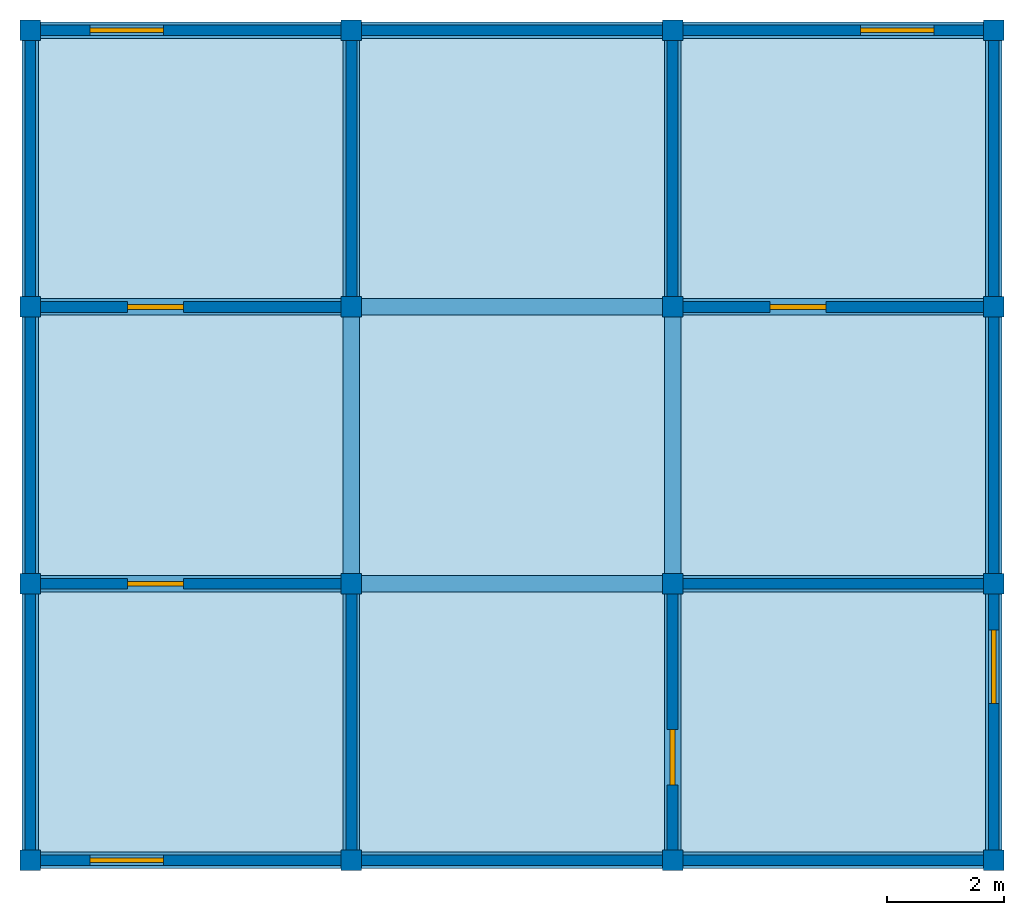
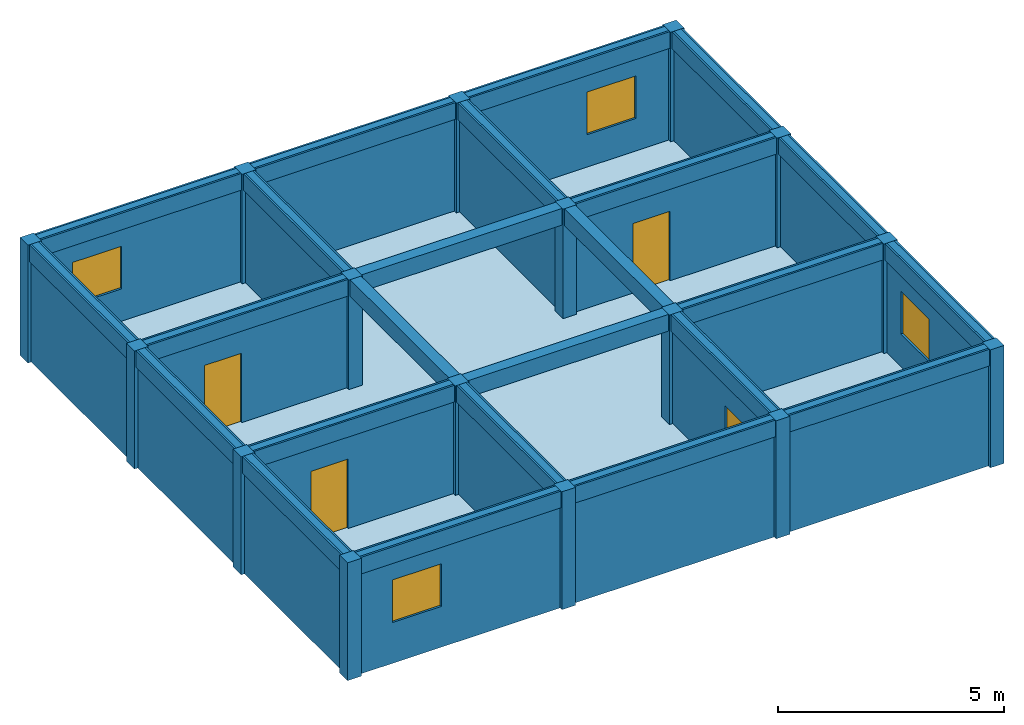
# One storey: 24 beams, 20 walls, 16 columns, 4 doors, 4 windows, 1 slab, 8 openings.
"""IFC4X3 building model written with IfcOpenShell, lengths in metres."""

from ifc_helpers import new_model, si_unit, frame, origin_with_axes, origin_2d, place, context, project, spatial, rectangle, extrude, material, element, fill, save


model = new_model("IFC4X3")

# Units and contexts
model_context = context("Model", 3, precision=1e-05, world=origin_with_axes())
ifc_project = project(units=[si_unit("LENGTHUNIT", "METRE"), si_unit("AREAUNIT", "SQUARE_METRE"), si_unit("VOLUMEUNIT", "CUBIC_METRE")], contexts=[model_context])

# Site, building, storey
site = spatial("IfcSite", under=ifc_project, Name="Antofagasta Parcel", CompositionType="ELEMENT")
building = spatial("IfcBuilding", under=site, Name="Nexo Block", CompositionType="ELEMENT")
storey = spatial("IfcBuildingStorey", under=building, Name="Level 6", CompositionType="ELEMENT", Elevation=15.91)

# Columns
ifc_material_1 = material(Name="Timber")
column_1_placement = place(None, frame((-8.2, -7.065, 15.904), z_axis=(0.0, 0.0, 1.0), x_axis=(1.0, 0.0, 0.0)))
element("IfcColumn", 1, at=column_1_placement, inside=storey, material=ifc_material_1, Name="Column 6.1", ObjectType="Corner Column", PredefinedType="PILASTER", context=model_context, shape_type="SweptSolid", body=[
    extrude(rectangle(XDim=0.35, YDim=0.35, at=origin_2d()), origin_with_axes(), (0.0, 0.0, 1.0), 3.181),
])
column_2_placement = place(None, frame((-8.2, -2.355, 15.904), z_axis=(0.0, 0.0, 1.0), x_axis=(1.0, 0.0, 0.0)))
element("IfcColumn", 2, at=column_2_placement, inside=storey, material=ifc_material_1, Name="Column 6.2", ObjectType="Structural Column", PredefinedType="USERDEFINED", context=model_context, shape_type="SweptSolid", body=[
    extrude(rectangle(XDim=0.35, YDim=0.35, at=origin_2d()), origin_with_axes(), (0.0, 0.0, 1.0), 3.181),
])
column_3_placement = place(None, frame((-8.2, 2.355, 15.904), z_axis=(0.0, 0.0, 1.0), x_axis=(1.0, 0.0, 0.0)))
element("IfcColumn", 3, at=column_3_placement, inside=storey, material=ifc_material_1, Name="Column 6.3", ObjectType="Core Column", PredefinedType="USERDEFINED", context=model_context, shape_type="SweptSolid", body=[
    extrude(rectangle(XDim=0.35, YDim=0.35, at=origin_2d()), origin_with_axes(), (0.0, 0.0, 1.0), 3.181),
])
column_4_placement = place(None, frame((-8.2, 7.065, 15.904), z_axis=(0.0, 0.0, 1.0), x_axis=(1.0, 0.0, 0.0)))
element("IfcColumn", 4, at=column_4_placement, inside=storey, material=ifc_material_1, Name="Column 6.4", ObjectType="Corner Column", PredefinedType="NOTDEFINED", context=model_context, shape_type="SweptSolid", body=[
    extrude(rectangle(XDim=0.35, YDim=0.35, at=origin_2d()), origin_with_axes(), (0.0, 0.0, 1.0), 3.181),
])
column_5_placement = place(None, frame((-2.733, -7.065, 15.904), z_axis=(0.0, 0.0, 1.0), x_axis=(1.0, 0.0, 0.0)))
element("IfcColumn", 5, at=column_5_placement, inside=storey, material=ifc_material_1, Name="Column 6.5", ObjectType="Structural Column", PredefinedType="USERDEFINED", context=model_context, shape_type="SweptSolid", body=[
    extrude(rectangle(XDim=0.35, YDim=0.35, at=origin_2d()), origin_with_axes(), (0.0, 0.0, 1.0), 3.181),
])
column_6_placement = place(None, frame((-2.733, -2.355, 15.904), z_axis=(0.0, 0.0, 1.0), x_axis=(1.0, 0.0, 0.0)))
element("IfcColumn", 6, at=column_6_placement, inside=storey, material=ifc_material_1, Name="Column 6.6", ObjectType="Core Column", PredefinedType="PILASTER", context=model_context, shape_type="SweptSolid", body=[
    extrude(rectangle(XDim=0.35, YDim=0.35, at=origin_2d()), origin_with_axes(), (0.0, 0.0, 1.0), 3.181),
])
column_7_placement = place(None, frame((-2.733, 2.355, 15.904), z_axis=(0.0, 0.0, 1.0), x_axis=(1.0, 0.0, 0.0)))
element("IfcColumn", 7, at=column_7_placement, inside=storey, material=ifc_material_1, Name="Column 6.7", ObjectType="Structural Column", PredefinedType="PILASTER", context=model_context, shape_type="SweptSolid", body=[
    extrude(rectangle(XDim=0.35, YDim=0.35, at=origin_2d()), origin_with_axes(), (0.0, 0.0, 1.0), 3.181),
])
column_8_placement = place(None, frame((-2.733, 7.065, 15.904), z_axis=(0.0, 0.0, 1.0), x_axis=(1.0, 0.0, 0.0)))
element("IfcColumn", 8, at=column_8_placement, inside=storey, material=ifc_material_1, Name="Column 6.8", ObjectType="Corner Column", PredefinedType="PILASTER", context=model_context, shape_type="SweptSolid", body=[
    extrude(rectangle(XDim=0.35, YDim=0.35, at=origin_2d()), origin_with_axes(), (0.0, 0.0, 1.0), 3.181),
])
column_9_placement = place(None, frame((2.734, -7.065, 15.904), z_axis=(0.0, 0.0, 1.0), x_axis=(1.0, 0.0, 0.0)))
element("IfcColumn", 9, at=column_9_placement, inside=storey, material=ifc_material_1, Name="Column 6.9", ObjectType="Core Column", PredefinedType="COLUMN", context=model_context, shape_type="SweptSolid", body=[
    extrude(rectangle(XDim=0.35, YDim=0.35, at=origin_2d()), origin_with_axes(), (0.0, 0.0, 1.0), 3.181),
])
column_10_placement = place(None, frame((2.734, -2.355, 15.904), z_axis=(0.0, 0.0, 1.0), x_axis=(1.0, 0.0, 0.0)))
element("IfcColumn", 10, at=column_10_placement, inside=storey, material=ifc_material_1, Name="Column 6.10", ObjectType="Core Column", PredefinedType="NOTDEFINED", context=model_context, shape_type="SweptSolid", body=[
    extrude(rectangle(XDim=0.35, YDim=0.35, at=origin_2d()), origin_with_axes(), (0.0, 0.0, 1.0), 3.181),
])
column_11_placement = place(None, frame((2.734, 2.355, 15.904), z_axis=(0.0, 0.0, 1.0), x_axis=(1.0, 0.0, 0.0)))
element("IfcColumn", 11, at=column_11_placement, inside=storey, material=ifc_material_1, Name="Column 6.11", ObjectType="Corner Column", PredefinedType="COLUMN", context=model_context, shape_type="SweptSolid", body=[
    extrude(rectangle(XDim=0.35, YDim=0.35, at=origin_2d()), origin_with_axes(), (0.0, 0.0, 1.0), 3.181),
])
column_12_placement = place(None, frame((2.734, 7.065, 15.904), z_axis=(0.0, 0.0, 1.0), x_axis=(1.0, 0.0, 0.0)))
element("IfcColumn", 12, at=column_12_placement, inside=storey, material=ifc_material_1, Name="Column 6.12", ObjectType="Core Column", PredefinedType="USERDEFINED", context=model_context, shape_type="SweptSolid", body=[
    extrude(rectangle(XDim=0.35, YDim=0.35, at=origin_2d()), origin_with_axes(), (0.0, 0.0, 1.0), 3.181),
])
column_13_placement = place(None, frame((8.201, -7.065, 15.904), z_axis=(0.0, 0.0, 1.0), x_axis=(1.0, 0.0, 0.0)))
element("IfcColumn", 13, at=column_13_placement, inside=storey, material=ifc_material_1, Name="Column 6.13", ObjectType="Core Column", PredefinedType="NOTDEFINED", context=model_context, shape_type="SweptSolid", body=[
    extrude(rectangle(XDim=0.35, YDim=0.35, at=origin_2d()), origin_with_axes(), (0.0, 0.0, 1.0), 3.181),
])
column_14_placement = place(None, frame((8.201, -2.355, 15.904), z_axis=(0.0, 0.0, 1.0), x_axis=(1.0, 0.0, 0.0)))
element("IfcColumn", 14, at=column_14_placement, inside=storey, material=ifc_material_1, Name="Column 6.14", ObjectType="Corner Column", PredefinedType="COLUMN", context=model_context, shape_type="SweptSolid", body=[
    extrude(rectangle(XDim=0.35, YDim=0.35, at=origin_2d()), origin_with_axes(), (0.0, 0.0, 1.0), 3.181),
])
column_15_placement = place(None, frame((8.201, 2.355, 15.904), z_axis=(0.0, 0.0, 1.0), x_axis=(1.0, 0.0, 0.0)))
element("IfcColumn", 15, at=column_15_placement, inside=storey, material=ifc_material_1, Name="Column 6.15", ObjectType="Facade Column", PredefinedType="PILASTER", context=model_context, shape_type="SweptSolid", body=[
    extrude(rectangle(XDim=0.35, YDim=0.35, at=origin_2d()), origin_with_axes(), (0.0, 0.0, 1.0), 3.181),
])
column_16_placement = place(None, frame((8.201, 7.065, 15.904), z_axis=(0.0, 0.0, 1.0), x_axis=(1.0, 0.0, 0.0)))
element("IfcColumn", 16, at=column_16_placement, inside=storey, material=ifc_material_1, Name="Column 6.16", ObjectType="Structural Column", PredefinedType="USERDEFINED", context=model_context, shape_type="SweptSolid", body=[
    extrude(rectangle(XDim=0.35, YDim=0.35, at=origin_2d()), origin_with_axes(), (0.0, 0.0, 1.0), 3.181),
])

# Beams
ifc_material_2 = material(Name="Concrete")
beam_1_placement = place(None, frame((-5.466, -7.065, 18.635), z_axis=(0.0, 0.0, 1.0), x_axis=(1.0, 0.0, 0.0)))
element("IfcBeam", 17, at=beam_1_placement, inside=storey, material=ifc_material_2, Name="Beam 6.1", ObjectType="Rafter Beam", PredefinedType="HOLLOWCORE", context=model_context, shape_type="SweptSolid", body=[
    extrude(rectangle(XDim=5.467, YDim=0.28, at=origin_2d()), origin_with_axes(), (0.0, 0.0, 1.0), 0.45),
])
beam_2_placement = place(None, frame((0.0, -7.065, 18.635), z_axis=(0.0, 0.0, 1.0), x_axis=(1.0, 0.0, 0.0)))
element("IfcBeam", 18, at=beam_2_placement, inside=storey, material=ifc_material_2, Name="Beam 6.2", ObjectType="Ridge Beam", PredefinedType="BEAM", context=model_context, shape_type="SweptSolid", body=[
    extrude(rectangle(XDim=5.467, YDim=0.28, at=origin_2d()), origin_with_axes(), (0.0, 0.0, 1.0), 0.45),
])
beam_3_placement = place(None, frame((5.468, -7.065, 18.635), z_axis=(0.0, 0.0, 1.0), x_axis=(1.0, 0.0, 0.0)))
element("IfcBeam", 19, at=beam_3_placement, inside=storey, material=ifc_material_2, Name="Beam 6.3", ObjectType="Rafter Beam", PredefinedType="USERDEFINED", context=model_context, shape_type="SweptSolid", body=[
    extrude(rectangle(XDim=5.467, YDim=0.28, at=origin_2d()), origin_with_axes(), (0.0, 0.0, 1.0), 0.45),
])
beam_4_placement = place(None, frame((-5.466, -2.355, 18.635), z_axis=(0.0, 0.0, 1.0), x_axis=(1.0, 0.0, 0.0)))
element("IfcBeam", 20, at=beam_4_placement, inside=storey, material=ifc_material_2, Name="Beam 6.4", ObjectType="Rafter Beam", PredefinedType="SPANDREL", context=model_context, shape_type="SweptSolid", body=[
    extrude(rectangle(XDim=5.467, YDim=0.28, at=origin_2d()), origin_with_axes(), (0.0, 0.0, 1.0), 0.45),
])
beam_5_placement = place(None, frame((0.0, -2.355, 18.635), z_axis=(0.0, 0.0, 1.0), x_axis=(1.0, 0.0, 0.0)))
element("IfcBeam", 21, at=beam_5_placement, inside=storey, material=ifc_material_2, Name="Beam 6.5", ObjectType="Transfer Beam", PredefinedType="JOIST", context=model_context, shape_type="SweptSolid", body=[
    extrude(rectangle(XDim=5.467, YDim=0.28, at=origin_2d()), origin_with_axes(), (0.0, 0.0, 1.0), 0.45),
])
beam_6_placement = place(None, frame((5.468, -2.355, 18.635), z_axis=(0.0, 0.0, 1.0), x_axis=(1.0, 0.0, 0.0)))
element("IfcBeam", 22, at=beam_6_placement, inside=storey, material=ifc_material_2, Name="Beam 6.6", ObjectType="Primary Beam", PredefinedType="LINTEL", context=model_context, shape_type="SweptSolid", body=[
    extrude(rectangle(XDim=5.467, YDim=0.28, at=origin_2d()), origin_with_axes(), (0.0, 0.0, 1.0), 0.45),
])
beam_7_placement = place(None, frame((-5.466, 2.355, 18.635), z_axis=(0.0, 0.0, 1.0), x_axis=(1.0, 0.0, 0.0)))
element("IfcBeam", 23, at=beam_7_placement, inside=storey, material=ifc_material_2, Name="Beam 6.7", ObjectType="Secondary Beam", PredefinedType="USERDEFINED", context=model_context, shape_type="SweptSolid", body=[
    extrude(rectangle(XDim=5.467, YDim=0.28, at=origin_2d()), origin_with_axes(), (0.0, 0.0, 1.0), 0.45),
])
beam_8_placement = place(None, frame((0.0, 2.355, 18.635), z_axis=(0.0, 0.0, 1.0), x_axis=(1.0, 0.0, 0.0)))
element("IfcBeam", 24, at=beam_8_placement, inside=storey, material=ifc_material_2, Name="Beam 6.8", ObjectType="Secondary Beam", PredefinedType="JOIST", context=model_context, shape_type="SweptSolid", body=[
    extrude(rectangle(XDim=5.467, YDim=0.28, at=origin_2d()), origin_with_axes(), (0.0, 0.0, 1.0), 0.45),
])
beam_9_placement = place(None, frame((5.468, 2.355, 18.635), z_axis=(0.0, 0.0, 1.0), x_axis=(1.0, 0.0, 0.0)))
element("IfcBeam", 25, at=beam_9_placement, inside=storey, material=ifc_material_2, Name="Beam 6.9", ObjectType="Primary Beam", PredefinedType="LINTEL", context=model_context, shape_type="SweptSolid", body=[
    extrude(rectangle(XDim=5.467, YDim=0.28, at=origin_2d()), origin_with_axes(), (0.0, 0.0, 1.0), 0.45),
])
beam_10_placement = place(None, frame((-5.466, 7.065, 18.635), z_axis=(0.0, 0.0, 1.0), x_axis=(1.0, 0.0, 0.0)))
element("IfcBeam", 26, at=beam_10_placement, inside=storey, material=ifc_material_2, Name="Beam 6.10", ObjectType="Transfer Beam", PredefinedType="NOTDEFINED", context=model_context, shape_type="SweptSolid", body=[
    extrude(rectangle(XDim=5.467, YDim=0.28, at=origin_2d()), origin_with_axes(), (0.0, 0.0, 1.0), 0.45),
])
beam_11_placement = place(None, frame((0.0, 7.065, 18.635), z_axis=(0.0, 0.0, 1.0), x_axis=(1.0, 0.0, 0.0)))
element("IfcBeam", 27, at=beam_11_placement, inside=storey, material=ifc_material_2, Name="Beam 6.11", ObjectType="Transfer Beam", PredefinedType="SPANDREL", context=model_context, shape_type="SweptSolid", body=[
    extrude(rectangle(XDim=5.467, YDim=0.28, at=origin_2d()), origin_with_axes(), (0.0, 0.0, 1.0), 0.45),
])
beam_12_placement = place(None, frame((5.468, 7.065, 18.635), z_axis=(0.0, 0.0, 1.0), x_axis=(1.0, 0.0, 0.0)))
element("IfcBeam", 28, at=beam_12_placement, inside=storey, material=ifc_material_2, Name="Beam 6.12", ObjectType="Ridge Beam", PredefinedType="T_BEAM", context=model_context, shape_type="SweptSolid", body=[
    extrude(rectangle(XDim=5.467, YDim=0.28, at=origin_2d()), origin_with_axes(), (0.0, 0.0, 1.0), 0.45),
])
beam_13_placement = place(None, frame((-8.2, -4.71, 18.635), z_axis=(0.0, 0.0, 1.0), x_axis=(0.0, 1.0, 0.0)))
element("IfcBeam", 29, at=beam_13_placement, inside=storey, material=ifc_material_2, Name="Beam 6.13", ObjectType="Ridge Beam", PredefinedType="NOTDEFINED", context=model_context, shape_type="SweptSolid", body=[
    extrude(rectangle(XDim=4.71, YDim=0.28, at=origin_2d()), origin_with_axes(), (0.0, 0.0, 1.0), 0.45),
])
beam_14_placement = place(None, frame((-8.2, 0.0, 18.635), z_axis=(0.0, 0.0, 1.0), x_axis=(0.0, 1.0, 0.0)))
element("IfcBeam", 30, at=beam_14_placement, inside=storey, material=ifc_material_2, Name="Beam 6.14", ObjectType="Secondary Beam", PredefinedType="USERDEFINED", context=model_context, shape_type="SweptSolid", body=[
    extrude(rectangle(XDim=4.71, YDim=0.28, at=origin_2d()), origin_with_axes(), (0.0, 0.0, 1.0), 0.45),
])
beam_15_placement = place(None, frame((-8.2, 4.71, 18.635), z_axis=(0.0, 0.0, 1.0), x_axis=(0.0, 1.0, 0.0)))
element("IfcBeam", 31, at=beam_15_placement, inside=storey, material=ifc_material_2, Name="Beam 6.15", ObjectType="Rafter Beam", PredefinedType="BEAM", context=model_context, shape_type="SweptSolid", body=[
    extrude(rectangle(XDim=4.71, YDim=0.28, at=origin_2d()), origin_with_axes(), (0.0, 0.0, 1.0), 0.45),
])
beam_16_placement = place(None, frame((-2.733, -4.71, 18.635), z_axis=(0.0, 0.0, 1.0), x_axis=(0.0, 1.0, 0.0)))
element("IfcBeam", 32, at=beam_16_placement, inside=storey, material=ifc_material_2, Name="Beam 6.16", ObjectType="Secondary Beam", PredefinedType="HOLLOWCORE", context=model_context, shape_type="SweptSolid", body=[
    extrude(rectangle(XDim=4.71, YDim=0.28, at=origin_2d()), origin_with_axes(), (0.0, 0.0, 1.0), 0.45),
])
for number, where, z_axis, x_axis, name in (
    (33, (-2.733, 0.0, 18.635), (0.0, 0.0, 1.0), (0.0, 1.0, 0.0), "Beam 6.17"),
    (34, (-2.733, 4.71, 18.635), (0.0, 0.0, 1.0), (0.0, 1.0, 0.0), "Beam 6.18"),
):
    element("IfcBeam", number, at=place(None, frame(where, z_axis=z_axis, x_axis=x_axis)), inside=storey, material=ifc_material_2, Name=name, ObjectType="Transfer Beam", PredefinedType="HOLLOWCORE", context=model_context, shape_type="SweptSolid", body=[
        extrude(rectangle(XDim=4.71, YDim=0.28, at=origin_2d()), origin_with_axes(), (0.0, 0.0, 1.0), 0.45),
    ])
beam_17_placement = place(None, frame((2.734, -4.71, 18.635), z_axis=(0.0, 0.0, 1.0), x_axis=(0.0, 1.0, 0.0)))
element("IfcBeam", 35, at=beam_17_placement, inside=storey, material=ifc_material_2, Name="Beam 6.19", ObjectType="Rafter Beam", PredefinedType="LINTEL", context=model_context, shape_type="SweptSolid", body=[
    extrude(rectangle(XDim=4.71, YDim=0.28, at=origin_2d()), origin_with_axes(), (0.0, 0.0, 1.0), 0.45),
])
beam_18_placement = place(None, frame((2.734, 0.0, 18.635), z_axis=(0.0, 0.0, 1.0), x_axis=(0.0, 1.0, 0.0)))
element("IfcBeam", 36, at=beam_18_placement, inside=storey, material=ifc_material_2, Name="Beam 6.20", ObjectType="Rafter Beam", PredefinedType="USERDEFINED", context=model_context, shape_type="SweptSolid", body=[
    extrude(rectangle(XDim=4.71, YDim=0.28, at=origin_2d()), origin_with_axes(), (0.0, 0.0, 1.0), 0.45),
])
beam_19_placement = place(None, frame((2.734, 4.71, 18.635), z_axis=(0.0, 0.0, 1.0), x_axis=(0.0, 1.0, 0.0)))
element("IfcBeam", 37, at=beam_19_placement, inside=storey, material=ifc_material_2, Name="Beam 6.21", ObjectType="Secondary Beam", PredefinedType="T_BEAM", context=model_context, shape_type="SweptSolid", body=[
    extrude(rectangle(XDim=4.71, YDim=0.28, at=origin_2d()), origin_with_axes(), (0.0, 0.0, 1.0), 0.45),
])
beam_20_placement = place(None, frame((8.201, -4.71, 18.635), z_axis=(0.0, 0.0, 1.0), x_axis=(0.0, 1.0, 0.0)))
element("IfcBeam", 38, at=beam_20_placement, inside=storey, material=ifc_material_2, Name="Beam 6.22", ObjectType="Secondary Beam", PredefinedType="JOIST", context=model_context, shape_type="SweptSolid", body=[
    extrude(rectangle(XDim=4.71, YDim=0.28, at=origin_2d()), origin_with_axes(), (0.0, 0.0, 1.0), 0.45),
])
beam_21_placement = place(None, frame((8.201, 0.0, 18.635), z_axis=(0.0, 0.0, 1.0), x_axis=(0.0, 1.0, 0.0)))
element("IfcBeam", 39, at=beam_21_placement, inside=storey, material=ifc_material_2, Name="Beam 6.23", ObjectType="Secondary Beam", PredefinedType="HOLLOWCORE", context=model_context, shape_type="SweptSolid", body=[
    extrude(rectangle(XDim=4.71, YDim=0.28, at=origin_2d()), origin_with_axes(), (0.0, 0.0, 1.0), 0.45),
])
beam_22_placement = place(None, frame((8.201, 4.71, 18.635), z_axis=(0.0, 0.0, 1.0), x_axis=(0.0, 1.0, 0.0)))
element("IfcBeam", 40, at=beam_22_placement, inside=storey, material=ifc_material_2, Name="Beam 6.24", ObjectType="Transfer Beam", PredefinedType="JOIST", context=model_context, shape_type="SweptSolid", body=[
    extrude(rectangle(XDim=4.71, YDim=0.28, at=origin_2d()), origin_with_axes(), (0.0, 0.0, 1.0), 0.45),
])

# Slab
slab_placement = place(None, frame((0.0, 0.0, 15.91), z_axis=(0.0, 0.0, 1.0), x_axis=(1.0, 0.0, 0.0)))
element("IfcSlab", 41, at=slab_placement, inside=storey, material=ifc_material_2, Name="Slab 6", ObjectType="Floor Slab", PredefinedType="FLOOR", context=model_context, shape_type="SweptSolid", body=[
    extrude(rectangle(XDim=16.4, YDim=14.13, at=origin_2d()), origin_with_axes(), (0.0, 0.0, 1.0), 0.22),
])

# Wall, opening, door
ifc_material_3 = material(Name="CLT")
wall_1_placement = place(None, frame((-5.466, -2.355, 15.904), z_axis=(0.0, 0.0, 1.0), x_axis=(1.0, 0.0, 0.0)))
wall_1 = element("IfcWall", 42, at=wall_1_placement, inside=storey, material=ifc_material_3, Name="Wall 6.1", ObjectType="Corridor Partition", PredefinedType="PARTITIONING", context=model_context, shape_type="SweptSolid", body=[
    extrude(rectangle(XDim=5.467, YDim=0.183078, at=origin_2d()), origin_with_axes(), (0.0, 0.0, 1.0), 3.181),
])
opening_1_placement = place(None, frame((-6.066, -2.355, 15.904), z_axis=(0.0, 0.0, 1.0), x_axis=(1.0, 0.0, 0.0)))
opening_1 = element("IfcOpeningElement", 43, at=opening_1_placement, cuts=wall_1, Name="Door opening 6.1", ObjectType="Door Opening", PredefinedType="OPENING", context=model_context, shape_type="SweptSolid", body=[
    extrude(rectangle(XDim=0.95, YDim=0.263078, at=origin_2d()), origin_with_axes(), (0.0, 0.0, 1.0), 2.1),
])
door_1_placement = place(None, frame((-6.066, -2.355, 15.904), z_axis=(0.0, 0.0, 1.0), x_axis=(1.0, 0.0, 0.0)))
door_1 = element("IfcDoor", 44, at=door_1_placement, inside=storey, Name="Door 6.1", ObjectType="Fire Door", OverallHeight=2.1, OverallWidth=0.95, context=model_context, shape_type="SweptSolid", body=[
    extrude(rectangle(XDim=0.95, YDim=0.08, at=origin_2d()), origin_with_axes(), (0.0, 0.0, 1.0), 2.1),
])
fill(opening_1, door_1)

# Wall
wall_2_placement = place(None, frame((-2.7325, -4.71, 15.904), z_axis=(0.0, 0.0, 1.0), x_axis=(0.0, 1.0, 0.0)))
element("IfcWall", 45, at=wall_2_placement, inside=storey, material=ifc_material_3, Name="Wall 6.2", ObjectType="Corridor Partition", PredefinedType="PLUMBINGWALL", context=model_context, shape_type="SweptSolid", body=[
    extrude(rectangle(XDim=4.71, YDim=0.183078, at=origin_2d()), origin_with_axes(), (0.0, 0.0, 1.0), 3.181),
])

# Wall, opening, window
wall_3_placement = place(None, frame((-5.466, -7.065, 15.904), z_axis=(0.0, 0.0, 1.0), x_axis=(1.0, 0.0, 0.0)))
wall_3 = element("IfcWall", 46, at=wall_3_placement, inside=storey, material=ifc_material_3, Name="Wall 6.3", ObjectType="Exterior Wall", PredefinedType="PARAPET", context=model_context, shape_type="SweptSolid", body=[
    extrude(rectangle(XDim=5.467, YDim=0.183078, at=origin_2d()), origin_with_axes(), (0.0, 0.0, 1.0), 3.181),
])
opening_2_placement = place(None, frame((-6.559, -7.065, 17.004), z_axis=(0.0, 0.0, 1.0), x_axis=(1.0, 0.0, 0.0)))
opening_2 = element("IfcOpeningElement", 47, at=opening_2_placement, cuts=wall_3, Name="Window opening 6.2", ObjectType="Window Opening", PredefinedType="OPENING", context=model_context, shape_type="SweptSolid", body=[
    extrude(rectangle(XDim=1.25, YDim=0.263078, at=origin_2d()), origin_with_axes(), (0.0, 0.0, 1.0), 1.15),
])
window_1_placement = place(None, frame((-6.559, -7.065, 17.004), z_axis=(0.0, 0.0, 1.0), x_axis=(1.0, 0.0, 0.0)))
window_1 = element("IfcWindow", 48, at=window_1_placement, inside=storey, Name="Window 6.2", ObjectType="Fixed Window", OverallHeight=1.15, OverallWidth=1.25, context=model_context, shape_type="SweptSolid", body=[
    extrude(rectangle(XDim=1.25, YDim=0.08, at=origin_2d()), origin_with_axes(), (0.0, 0.0, 1.0), 1.15),
])
fill(opening_2, window_1)

# Wall
ifc_material_4 = material(Name="Gypsum")
wall_4_placement = place(None, frame((-8.1995, -4.71, 15.904), z_axis=(0.0, 0.0, 1.0), x_axis=(0.0, 1.0, 0.0)))
element("IfcWall", 49, at=wall_4_placement, inside=storey, material=ifc_material_4, Name="Wall 6.4", ObjectType="Exterior Wall", PredefinedType="SHEAR", context=model_context, shape_type="SweptSolid", body=[
    extrude(rectangle(XDim=4.71, YDim=0.183078, at=origin_2d()), origin_with_axes(), (0.0, 0.0, 1.0), 3.181),
])

# Wall, opening, door
wall_5_placement = place(None, frame((2.7335, -4.71, 15.904), z_axis=(0.0, 0.0, 1.0), x_axis=(0.0, 1.0, 0.0)))
wall_5 = element("IfcWall", 50, at=wall_5_placement, inside=storey, material=ifc_material_2, Name="Wall 6.5", ObjectType="Corridor Partition", PredefinedType="POLYGONAL", context=model_context, shape_type="SweptSolid", body=[
    extrude(rectangle(XDim=4.71, YDim=0.183078, at=origin_2d()), origin_with_axes(), (0.0, 0.0, 1.0), 3.181),
])
opening_3_placement = place(None, frame((2.733, -5.31, 15.904), z_axis=(0.0, 0.0, 1.0), x_axis=(0.0, 1.0, 0.0)))
opening_3 = element("IfcOpeningElement", 51, at=opening_3_placement, cuts=wall_5, Name="Door opening 6.3", ObjectType="Door Opening", PredefinedType="OPENING", context=model_context, shape_type="SweptSolid", body=[
    extrude(rectangle(XDim=0.95, YDim=0.263078, at=origin_2d()), origin_with_axes(), (0.0, 0.0, 1.0), 2.1),
])
door_2_placement = place(None, frame((2.733, -5.31, 15.904), z_axis=(0.0, 0.0, 1.0), x_axis=(0.0, 1.0, 0.0)))
door_2 = element("IfcDoor", 52, at=door_2_placement, inside=storey, Name="Door 6.3", ObjectType="Entry Door", OverallHeight=2.1, OverallWidth=0.95, context=model_context, shape_type="SweptSolid", body=[
    extrude(rectangle(XDim=0.95, YDim=0.08, at=origin_2d()), origin_with_axes(), (0.0, 0.0, 1.0), 2.1),
])
fill(opening_3, door_2)

# Walls
wall_6_placement = place(None, frame((0.0, -7.065, 15.904), z_axis=(0.0, 0.0, 1.0), x_axis=(1.0, 0.0, 0.0)))
element("IfcWall", 53, at=wall_6_placement, inside=storey, material=ifc_material_4, Name="Wall 6.6", ObjectType="Exterior Wall", PredefinedType="ELEMENTEDWALL", context=model_context, shape_type="SweptSolid", body=[
    extrude(rectangle(XDim=5.467, YDim=0.183078, at=origin_2d()), origin_with_axes(), (0.0, 0.0, 1.0), 3.181),
])
ifc_material_5 = material(Name="Brick")
wall_7_placement = place(None, frame((5.467, -2.355, 15.904), z_axis=(0.0, 0.0, 1.0), x_axis=(1.0, 0.0, 0.0)))
element("IfcWall", 54, at=wall_7_placement, inside=storey, material=ifc_material_5, Name="Wall 6.7", ObjectType="Corridor Partition", PredefinedType="SHEAR", context=model_context, shape_type="SweptSolid", body=[
    extrude(rectangle(XDim=5.467, YDim=0.183078, at=origin_2d()), origin_with_axes(), (0.0, 0.0, 1.0), 3.181),
])

# Wall, opening, window
wall_8_placement = place(None, frame((8.2005, -4.71, 15.904), z_axis=(0.0, 0.0, 1.0), x_axis=(0.0, 1.0, 0.0)))
wall_8 = element("IfcWall", 55, at=wall_8_placement, inside=storey, material=ifc_material_2, Name="Wall 6.8", ObjectType="Exterior Wall", PredefinedType="ELEMENTEDWALL", context=model_context, shape_type="SweptSolid", body=[
    extrude(rectangle(XDim=4.71, YDim=0.183078, at=origin_2d()), origin_with_axes(), (0.0, 0.0, 1.0), 3.181),
])
opening_4_placement = place(None, frame((8.2, -3.768, 17.004), z_axis=(0.0, 0.0, 1.0), x_axis=(0.0, 1.0, 0.0)))
opening_4 = element("IfcOpeningElement", 56, at=opening_4_placement, cuts=wall_8, Name="Window opening 6.4", ObjectType="Window Opening", PredefinedType="OPENING", context=model_context, shape_type="SweptSolid", body=[
    extrude(rectangle(XDim=1.25, YDim=0.263078, at=origin_2d()), origin_with_axes(), (0.0, 0.0, 1.0), 1.15),
])
window_2_placement = place(None, frame((8.2, -3.768, 17.004), z_axis=(0.0, 0.0, 1.0), x_axis=(0.0, 1.0, 0.0)))
window_2 = element("IfcWindow", 57, at=window_2_placement, inside=storey, Name="Window 6.4", ObjectType="Fixed Window", OverallHeight=1.15, OverallWidth=1.25, context=model_context, shape_type="SweptSolid", body=[
    extrude(rectangle(XDim=1.25, YDim=0.08, at=origin_2d()), origin_with_axes(), (0.0, 0.0, 1.0), 1.15),
])
fill(opening_4, window_2)

# Wall
wall_9_placement = place(None, frame((5.467, -7.065, 15.904), z_axis=(0.0, 0.0, 1.0), x_axis=(1.0, 0.0, 0.0)))
element("IfcWall", 58, at=wall_9_placement, inside=storey, material=ifc_material_5, Name="Wall 6.9", ObjectType="Exterior Wall", PredefinedType="NOTDEFINED", context=model_context, shape_type="SweptSolid", body=[
    extrude(rectangle(XDim=5.467, YDim=0.183078, at=origin_2d()), origin_with_axes(), (0.0, 0.0, 1.0), 3.181),
])

# Wall, opening, door
wall_10_placement = place(None, frame((-5.466, 2.355, 15.904), z_axis=(0.0, 0.0, 1.0), x_axis=(1.0, 0.0, 0.0)))
wall_10 = element("IfcWall", 59, at=wall_10_placement, inside=storey, material=ifc_material_5, Name="Wall 6.10", ObjectType="Corridor Partition", PredefinedType="NOTDEFINED", context=model_context, shape_type="SweptSolid", body=[
    extrude(rectangle(XDim=5.467, YDim=0.183078, at=origin_2d()), origin_with_axes(), (0.0, 0.0, 1.0), 3.181),
])
opening_5_placement = place(None, frame((-6.066, 2.355, 15.904), z_axis=(0.0, 0.0, 1.0), x_axis=(1.0, 0.0, 0.0)))
opening_5 = element("IfcOpeningElement", 60, at=opening_5_placement, cuts=wall_10, Name="Door opening 6.5", ObjectType="Door Opening", PredefinedType="OPENING", context=model_context, shape_type="SweptSolid", body=[
    extrude(rectangle(XDim=0.95, YDim=0.263078, at=origin_2d()), origin_with_axes(), (0.0, 0.0, 1.0), 2.1),
])
door_3_placement = place(None, frame((-6.066, 2.355, 15.904), z_axis=(0.0, 0.0, 1.0), x_axis=(1.0, 0.0, 0.0)))
door_3 = element("IfcDoor", 61, at=door_3_placement, inside=storey, Name="Door 6.5", ObjectType="Fire Door", OverallHeight=2.1, OverallWidth=0.95, context=model_context, shape_type="SweptSolid", body=[
    extrude(rectangle(XDim=0.95, YDim=0.08, at=origin_2d()), origin_with_axes(), (0.0, 0.0, 1.0), 2.1),
])
fill(opening_5, door_3)

# Wall
wall_11_placement = place(None, frame((-8.1995, 0.0, 15.904), z_axis=(0.0, 0.0, 1.0), x_axis=(0.0, 1.0, 0.0)))
element("IfcWall", 62, at=wall_11_placement, inside=storey, material=ifc_material_3, Name="Wall 6.11", ObjectType="Exterior Wall", PredefinedType="STANDARD", context=model_context, shape_type="SweptSolid", body=[
    extrude(rectangle(XDim=4.71, YDim=0.183078, at=origin_2d()), origin_with_axes(), (0.0, 0.0, 1.0), 3.181),
])

# Wall, opening, door
wall_12_placement = place(None, frame((5.467, 2.355, 15.904), z_axis=(0.0, 0.0, 1.0), x_axis=(1.0, 0.0, 0.0)))
wall_12 = element("IfcWall", 63, at=wall_12_placement, inside=storey, material=ifc_material_2, Name="Wall 6.12", ObjectType="Corridor Partition", PredefinedType="MOVABLE", context=model_context, shape_type="SweptSolid", body=[
    extrude(rectangle(XDim=5.467, YDim=0.183078, at=origin_2d()), origin_with_axes(), (0.0, 0.0, 1.0), 3.181),
])
opening_6_placement = place(None, frame((4.867, 2.355, 15.904), z_axis=(0.0, 0.0, 1.0), x_axis=(1.0, 0.0, 0.0)))
opening_6 = element("IfcOpeningElement", 64, at=opening_6_placement, cuts=wall_12, Name="Door opening 6.7", ObjectType="Door Opening", PredefinedType="OPENING", context=model_context, shape_type="SweptSolid", body=[
    extrude(rectangle(XDim=0.95, YDim=0.263078, at=origin_2d()), origin_with_axes(), (0.0, 0.0, 1.0), 2.1),
])
door_4_placement = place(None, frame((4.867, 2.355, 15.904), z_axis=(0.0, 0.0, 1.0), x_axis=(1.0, 0.0, 0.0)))
door_4 = element("IfcDoor", 65, at=door_4_placement, inside=storey, Name="Door 6.7", ObjectType="Entry Door", OverallHeight=2.1, OverallWidth=0.95, context=model_context, shape_type="SweptSolid", body=[
    extrude(rectangle(XDim=0.95, YDim=0.08, at=origin_2d()), origin_with_axes(), (0.0, 0.0, 1.0), 2.1),
])
fill(opening_6, door_4)

# Wall
wall_13_placement = place(None, frame((8.2005, 0.0, 15.904), z_axis=(0.0, 0.0, 1.0), x_axis=(0.0, 1.0, 0.0)))
element("IfcWall", 66, at=wall_13_placement, inside=storey, material=ifc_material_2, Name="Wall 6.13", ObjectType="Exterior Wall", PredefinedType="STANDARD", context=model_context, shape_type="SweptSolid", body=[
    extrude(rectangle(XDim=4.71, YDim=0.183078, at=origin_2d()), origin_with_axes(), (0.0, 0.0, 1.0), 3.181),
])

# Wall, opening, window
wall_14_placement = place(None, frame((-5.466, 7.065, 15.904), z_axis=(0.0, 0.0, 1.0), x_axis=(1.0, 0.0, 0.0)))
wall_14 = element("IfcWall", 67, at=wall_14_placement, inside=storey, material=ifc_material_2, Name="Wall 6.14", ObjectType="Exterior Wall", PredefinedType="PLUMBINGWALL", context=model_context, shape_type="SweptSolid", body=[
    extrude(rectangle(XDim=5.467, YDim=0.183078, at=origin_2d()), origin_with_axes(), (0.0, 0.0, 1.0), 3.181),
])
opening_7_placement = place(None, frame((-6.559, 7.065, 17.004), z_axis=(0.0, 0.0, 1.0), x_axis=(1.0, 0.0, 0.0)))
opening_7 = element("IfcOpeningElement", 68, at=opening_7_placement, cuts=wall_14, Name="Window opening 6.6", ObjectType="Window Opening", PredefinedType="OPENING", context=model_context, shape_type="SweptSolid", body=[
    extrude(rectangle(XDim=1.25, YDim=0.263078, at=origin_2d()), origin_with_axes(), (0.0, 0.0, 1.0), 1.15),
])
window_3_placement = place(None, frame((-6.559, 7.065, 17.004), z_axis=(0.0, 0.0, 1.0), x_axis=(1.0, 0.0, 0.0)))
window_3 = element("IfcWindow", 69, at=window_3_placement, inside=storey, Name="Window 6.6", ObjectType="Louvre Window", OverallHeight=1.15, OverallWidth=1.25, context=model_context, shape_type="SweptSolid", body=[
    extrude(rectangle(XDim=1.25, YDim=0.08, at=origin_2d()), origin_with_axes(), (0.0, 0.0, 1.0), 1.15),
])
fill(opening_7, window_3)

# Walls
wall_15_placement = place(None, frame((-2.7325, 4.71, 15.904), z_axis=(0.0, 0.0, 1.0), x_axis=(0.0, 1.0, 0.0)))
element("IfcWall", 70, at=wall_15_placement, inside=storey, material=ifc_material_3, Name="Wall 6.15", ObjectType="Corridor Partition", PredefinedType="NOTDEFINED", context=model_context, shape_type="SweptSolid", body=[
    extrude(rectangle(XDim=4.71, YDim=0.183078, at=origin_2d()), origin_with_axes(), (0.0, 0.0, 1.0), 3.181),
])
wall_16_placement = place(None, frame((-8.1995, 4.71, 15.904), z_axis=(0.0, 0.0, 1.0), x_axis=(0.0, 1.0, 0.0)))
element("IfcWall", 71, at=wall_16_placement, inside=storey, material=ifc_material_2, Name="Wall 6.16", ObjectType="Exterior Wall", PredefinedType="SHEAR", context=model_context, shape_type="SweptSolid", body=[
    extrude(rectangle(XDim=4.71, YDim=0.183078, at=origin_2d()), origin_with_axes(), (0.0, 0.0, 1.0), 3.181),
])
wall_17_placement = place(None, frame((0.0, 7.065, 15.904), z_axis=(0.0, 0.0, 1.0), x_axis=(1.0, 0.0, 0.0)))
element("IfcWall", 72, at=wall_17_placement, inside=storey, material=ifc_material_4, Name="Wall 6.17", ObjectType="Exterior Wall", PredefinedType="PARTITIONING", context=model_context, shape_type="SweptSolid", body=[
    extrude(rectangle(XDim=5.467, YDim=0.183078, at=origin_2d()), origin_with_axes(), (0.0, 0.0, 1.0), 3.181),
])
wall_18_placement = place(None, frame((2.7335, 4.71, 15.904), z_axis=(0.0, 0.0, 1.0), x_axis=(0.0, 1.0, 0.0)))
element("IfcWall", 73, at=wall_18_placement, inside=storey, material=ifc_material_4, Name="Wall 6.18", ObjectType="Corridor Partition", PredefinedType="PLUMBINGWALL", context=model_context, shape_type="SweptSolid", body=[
    extrude(rectangle(XDim=4.71, YDim=0.183078, at=origin_2d()), origin_with_axes(), (0.0, 0.0, 1.0), 3.181),
])

# Wall, opening, window
wall_19_placement = place(None, frame((5.467, 7.065, 15.904), z_axis=(0.0, 0.0, 1.0), x_axis=(1.0, 0.0, 0.0)))
wall_19 = element("IfcWall", 74, at=wall_19_placement, inside=storey, material=ifc_material_5, Name="Wall 6.19", ObjectType="Exterior Wall", PredefinedType="MOVABLE", context=model_context, shape_type="SweptSolid", body=[
    extrude(rectangle(XDim=5.467, YDim=0.183078, at=origin_2d()), origin_with_axes(), (0.0, 0.0, 1.0), 3.181),
])
opening_8_placement = place(None, frame((6.56, 7.065, 17.004), z_axis=(0.0, 0.0, 1.0), x_axis=(1.0, 0.0, 0.0)))
opening_8 = element("IfcOpeningElement", 75, at=opening_8_placement, cuts=wall_19, Name="Window opening 6.8", ObjectType="Window Opening", PredefinedType="OPENING", context=model_context, shape_type="SweptSolid", body=[
    extrude(rectangle(XDim=1.25, YDim=0.263078, at=origin_2d()), origin_with_axes(), (0.0, 0.0, 1.0), 1.15),
])
window_4_placement = place(None, frame((6.56, 7.065, 17.004), z_axis=(0.0, 0.0, 1.0), x_axis=(1.0, 0.0, 0.0)))
window_4 = element("IfcWindow", 76, at=window_4_placement, inside=storey, Name="Window 6.8", ObjectType="Operable Window", OverallHeight=1.15, OverallWidth=1.25, context=model_context, shape_type="SweptSolid", body=[
    extrude(rectangle(XDim=1.25, YDim=0.08, at=origin_2d()), origin_with_axes(), (0.0, 0.0, 1.0), 1.15),
])
fill(opening_8, window_4)

# Wall
wall_20_placement = place(None, frame((8.2005, 4.71, 15.904), z_axis=(0.0, 0.0, 1.0), x_axis=(0.0, 1.0, 0.0)))
element("IfcWall", 77, at=wall_20_placement, inside=storey, material=ifc_material_5, Name="Wall 6.20", ObjectType="Exterior Wall", PredefinedType="ELEMENTEDWALL", context=model_context, shape_type="SweptSolid", body=[
    extrude(rectangle(XDim=4.71, YDim=0.183078, at=origin_2d()), origin_with_axes(), (0.0, 0.0, 1.0), 3.181),
])

save(model, "model.ifc")
